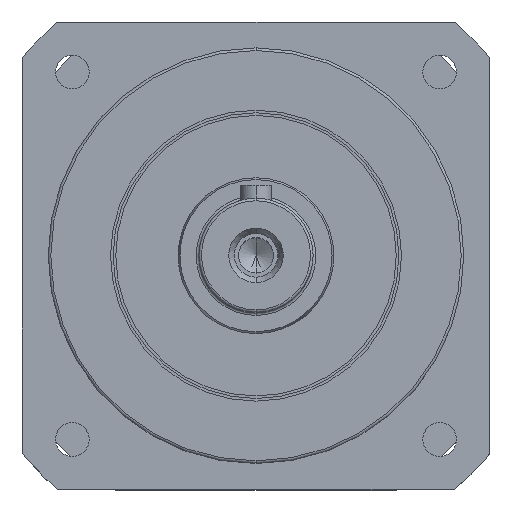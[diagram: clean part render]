
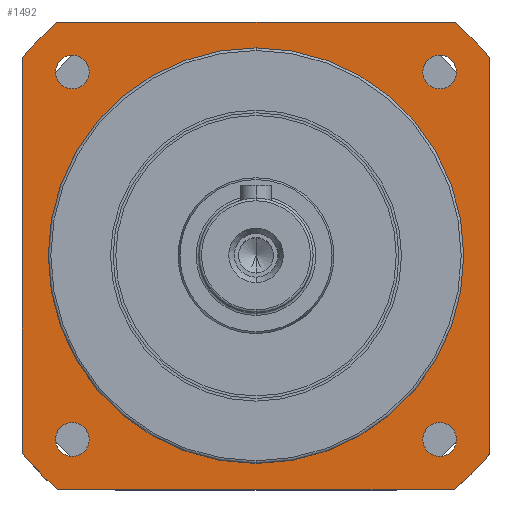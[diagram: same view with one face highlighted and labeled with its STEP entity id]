
A CAD part, top view. The second image highlights one B-rep face of the part: STEP entity #1492.
In plain terms, the highlighted planar face has unit normal (0, 0, 1).
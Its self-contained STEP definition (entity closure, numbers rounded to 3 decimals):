
#499=FACE_BOUND('',#2575,.T.);
#500=FACE_BOUND('',#2576,.T.);
#501=FACE_BOUND('',#2577,.T.);
#502=FACE_BOUND('',#2578,.T.);
#503=FACE_BOUND('',#2579,.T.);
#504=FACE_BOUND('',#2580,.T.);
#953=CIRCLE('',#8225,3.25);
#955=CIRCLE('',#8228,3.25);
#957=CIRCLE('',#8231,3.25);
#959=CIRCLE('',#8234,3.25);
#962=CIRCLE('',#8240,40.);
#1004=CIRCLE('',#8313,59.);
#1005=CIRCLE('',#8315,59.);
#1006=CIRCLE('',#8317,59.);
#1008=CIRCLE('',#8320,59.);
#1009=CIRCLE('',#8322,3.25);
#1010=CIRCLE('',#8323,3.25);
#1011=CIRCLE('',#8324,3.25);
#1012=CIRCLE('',#8325,3.25);
#1013=CIRCLE('',#8326,40.);
#1492=ADVANCED_FACE('',(#499,#500,#501,#502,#503,#504),#1873,.T.);
#1873=PLANE('',#8327);
#2575=EDGE_LOOP('',(#3692,#3693,#3694,#3695,#3696,#3697,#3698,#3699));
#2576=EDGE_LOOP('',(#3700,#3701));
#2577=EDGE_LOOP('',(#3702,#3703));
#2578=EDGE_LOOP('',(#3704,#3705));
#2579=EDGE_LOOP('',(#3706,#3707));
#2580=EDGE_LOOP('',(#3708,#3709));
#3692=ORIENTED_EDGE('',*,*,#6284,.T.);
#3693=ORIENTED_EDGE('',*,*,#6243,.T.);
#3694=ORIENTED_EDGE('',*,*,#6285,.T.);
#3695=ORIENTED_EDGE('',*,*,#6221,.T.);
#3696=ORIENTED_EDGE('',*,*,#6286,.T.);
#3697=ORIENTED_EDGE('',*,*,#6199,.T.);
#3698=ORIENTED_EDGE('',*,*,#6288,.T.);
#3699=ORIENTED_EDGE('',*,*,#6265,.T.);
#3700=ORIENTED_EDGE('',*,*,#6289,.F.);
#3701=ORIENTED_EDGE('',*,*,#6148,.F.);
#3702=ORIENTED_EDGE('',*,*,#6290,.F.);
#3703=ORIENTED_EDGE('',*,*,#6152,.F.);
#3704=ORIENTED_EDGE('',*,*,#6291,.F.);
#3705=ORIENTED_EDGE('',*,*,#6156,.F.);
#3706=ORIENTED_EDGE('',*,*,#6292,.F.);
#3707=ORIENTED_EDGE('',*,*,#6160,.F.);
#3708=ORIENTED_EDGE('',*,*,#6293,.F.);
#3709=ORIENTED_EDGE('',*,*,#6170,.F.);
#5376=VERTEX_POINT('',#12235);
#5377=VERTEX_POINT('',#12237);
#5380=VERTEX_POINT('',#12244);
#5381=VERTEX_POINT('',#12246);
#5384=VERTEX_POINT('',#12253);
#5385=VERTEX_POINT('',#12255);
#5388=VERTEX_POINT('',#12262);
#5389=VERTEX_POINT('',#12264);
#5396=VERTEX_POINT('',#12298);
#5397=VERTEX_POINT('',#12300);
#5413=VERTEX_POINT('',#12382);
#5414=VERTEX_POINT('',#12384);
#5429=VERTEX_POINT('',#12426);
#5430=VERTEX_POINT('',#12428);
#5445=VERTEX_POINT('',#12470);
#5446=VERTEX_POINT('',#12472);
#5461=VERTEX_POINT('',#12514);
#5462=VERTEX_POINT('',#12516);
#6148=EDGE_CURVE('',#5376,#5377,#953,.T.);
#6152=EDGE_CURVE('',#5380,#5381,#955,.T.);
#6156=EDGE_CURVE('',#5384,#5385,#957,.T.);
#6160=EDGE_CURVE('',#5388,#5389,#959,.T.);
#6170=EDGE_CURVE('',#5396,#5397,#962,.T.);
#6199=EDGE_CURVE('',#5414,#5413,#7131,.T.);
#6221=EDGE_CURVE('',#5430,#5429,#7147,.T.);
#6243=EDGE_CURVE('',#5446,#5445,#7163,.T.);
#6265=EDGE_CURVE('',#5462,#5461,#7179,.T.);
#6284=EDGE_CURVE('',#5461,#5446,#1004,.T.);
#6285=EDGE_CURVE('',#5445,#5430,#1005,.T.);
#6286=EDGE_CURVE('',#5429,#5414,#1006,.T.);
#6288=EDGE_CURVE('',#5413,#5462,#1008,.T.);
#6289=EDGE_CURVE('',#5377,#5376,#1009,.T.);
#6290=EDGE_CURVE('',#5381,#5380,#1010,.T.);
#6291=EDGE_CURVE('',#5385,#5384,#1011,.T.);
#6292=EDGE_CURVE('',#5389,#5388,#1012,.T.);
#6293=EDGE_CURVE('',#5397,#5396,#1013,.T.);
#7131=LINE('',#12383,#7660);
#7147=LINE('',#12427,#7676);
#7163=LINE('',#12471,#7692);
#7179=LINE('',#12515,#7708);
#7660=VECTOR('',#9614,1.);
#7676=VECTOR('',#9654,1.);
#7692=VECTOR('',#9694,1.);
#7708=VECTOR('',#9734,1.);
#8225=AXIS2_PLACEMENT_3D('',#12236,#9520,#9521);
#8228=AXIS2_PLACEMENT_3D('',#12245,#9528,#9529);
#8231=AXIS2_PLACEMENT_3D('',#12254,#9536,#9537);
#8234=AXIS2_PLACEMENT_3D('',#12263,#9544,#9545);
#8240=AXIS2_PLACEMENT_3D('',#12299,#9562,#9563);
#8313=AXIS2_PLACEMENT_3D('',#12541,#9778,#9779);
#8315=AXIS2_PLACEMENT_3D('',#12543,#9782,#9783);
#8317=AXIS2_PLACEMENT_3D('',#12545,#9786,#9787);
#8320=AXIS2_PLACEMENT_3D('',#12548,#9792,#9793);
#8322=AXIS2_PLACEMENT_3D('',#12550,#9796,#9797);
#8323=AXIS2_PLACEMENT_3D('',#12551,#9798,#9799);
#8324=AXIS2_PLACEMENT_3D('',#12552,#9800,#9801);
#8325=AXIS2_PLACEMENT_3D('',#12553,#9802,#9803);
#8326=AXIS2_PLACEMENT_3D('',#12554,#9804,#9805);
#8327=AXIS2_PLACEMENT_3D('',#12555,#9806,#9807);
#9520=DIRECTION('',(0.,0.,1.));
#9521=DIRECTION('',(1.,0.,0.));
#9528=DIRECTION('',(0.,0.,1.));
#9529=DIRECTION('',(0.,1.,0.));
#9536=DIRECTION('',(0.,0.,1.));
#9537=DIRECTION('',(-1.,0.,0.));
#9544=DIRECTION('',(0.,0.,1.));
#9545=DIRECTION('',(0.,-1.,0.));
#9562=DIRECTION('',(0.,0.,1.));
#9563=DIRECTION('',(0.,-1.,0.));
#9614=DIRECTION('',(0.,1.,0.));
#9654=DIRECTION('',(1.,0.,0.));
#9694=DIRECTION('',(0.,-1.,0.));
#9734=DIRECTION('',(-1.,0.,0.));
#9778=DIRECTION('',(0.,0.,1.));
#9779=DIRECTION('',(1.,0.,0.));
#9782=DIRECTION('',(0.,0.,1.));
#9783=DIRECTION('',(1.,0.,0.));
#9786=DIRECTION('',(0.,0.,1.));
#9787=DIRECTION('',(1.,0.,0.));
#9792=DIRECTION('',(0.,0.,1.));
#9793=DIRECTION('',(1.,0.,0.));
#9796=DIRECTION('',(0.,0.,1.));
#9797=DIRECTION('',(1.,0.,0.));
#9798=DIRECTION('',(0.,0.,1.));
#9799=DIRECTION('',(0.,1.,0.));
#9800=DIRECTION('',(0.,0.,1.));
#9801=DIRECTION('',(-1.,0.,0.));
#9802=DIRECTION('',(0.,0.,1.));
#9803=DIRECTION('',(0.,-1.,0.));
#9804=DIRECTION('',(0.,0.,1.));
#9805=DIRECTION('',(0.,-1.,0.));
#9806=DIRECTION('',(0.,0.,1.));
#9807=DIRECTION('',(-1.,0.,0.));
#12235=CARTESIAN_POINT('',(-41.191,45.535,152.753));
#12236=CARTESIAN_POINT('',(-41.191,42.285,152.753));
#12237=CARTESIAN_POINT('',(-41.191,39.035,152.753));
#12244=CARTESIAN_POINT('',(-41.191,-25.176,152.753));
#12245=CARTESIAN_POINT('',(-41.191,-28.426,152.753));
#12246=CARTESIAN_POINT('',(-41.191,-31.676,152.753));
#12253=CARTESIAN_POINT('',(29.52,-25.176,152.753));
#12254=CARTESIAN_POINT('',(29.52,-28.426,152.753));
#12255=CARTESIAN_POINT('',(29.52,-31.676,152.753));
#12262=CARTESIAN_POINT('',(29.52,45.535,152.753));
#12263=CARTESIAN_POINT('',(29.52,42.285,152.753));
#12264=CARTESIAN_POINT('',(29.52,39.035,152.753));
#12298=CARTESIAN_POINT('',(-5.836,-33.07,152.753));
#12299=CARTESIAN_POINT('',(-5.836,6.93,152.753));
#12300=CARTESIAN_POINT('',(-5.836,46.93,152.753));
#12382=CARTESIAN_POINT('',(39.164,45.087,152.753));
#12383=CARTESIAN_POINT('',(39.164,46.697,152.753));
#12384=CARTESIAN_POINT('',(39.164,-31.228,152.753));
#12426=CARTESIAN_POINT('',(32.322,-38.07,152.753));
#12427=CARTESIAN_POINT('',(35.35,-38.07,152.753));
#12428=CARTESIAN_POINT('',(-44.105,-38.07,152.753));
#12470=CARTESIAN_POINT('',(-50.836,-31.085,152.753));
#12471=CARTESIAN_POINT('',(-50.836,45.087,152.753));
#12472=CARTESIAN_POINT('',(-50.836,45.087,152.753));
#12514=CARTESIAN_POINT('',(-43.993,51.93,152.753));
#12515=CARTESIAN_POINT('',(33.741,51.93,152.753));
#12516=CARTESIAN_POINT('',(32.322,51.93,152.753));
#12541=CARTESIAN_POINT('',(-5.836,6.93,152.753));
#12543=CARTESIAN_POINT('',(-5.126,6.22,152.753));
#12545=CARTESIAN_POINT('',(-5.836,6.93,152.753));
#12548=CARTESIAN_POINT('',(-5.836,6.93,152.753));
#12550=CARTESIAN_POINT('',(-41.191,42.285,152.753));
#12551=CARTESIAN_POINT('',(-41.191,-28.426,152.753));
#12552=CARTESIAN_POINT('',(29.52,-28.426,152.753));
#12553=CARTESIAN_POINT('',(29.52,42.285,152.753));
#12554=CARTESIAN_POINT('',(-5.836,6.93,152.753));
#12555=CARTESIAN_POINT('',(-5.126,6.22,152.753));
